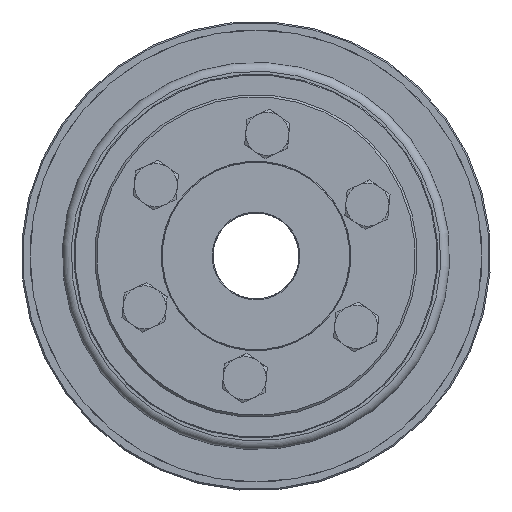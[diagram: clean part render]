
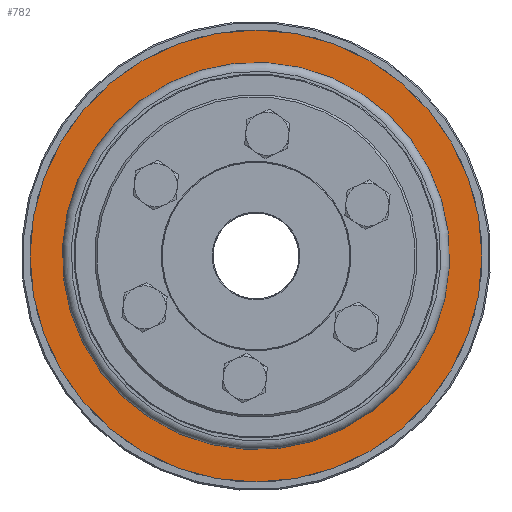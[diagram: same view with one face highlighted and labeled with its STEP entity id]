
A CAD part, left-side view. The second image highlights one B-rep face of the part: STEP entity #782.
In plain terms, the highlighted planar face has unit normal (-1, 0, 0).
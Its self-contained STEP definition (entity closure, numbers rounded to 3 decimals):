
#782 = ADVANCED_FACE( '', ( #1567, #1568 ), #1569, .T. );
#1567 = FACE_OUTER_BOUND( '', #2550, .T. );
#1568 = FACE_BOUND( '', #2551, .T. );
#1569 = PLANE( '', #2552 );
#2550 = EDGE_LOOP( '', ( #3627 ) );
#2551 = EDGE_LOOP( '', ( #3628 ) );
#2552 = AXIS2_PLACEMENT_3D( '', #3629, #3630, #3631 );
#3627 = ORIENTED_EDGE( '', *, *, #4924, .T. );
#3628 = ORIENTED_EDGE( '', *, *, #4707, .F. );
#3629 = CARTESIAN_POINT( '', ( 0., 0., 32.5 ) );
#3630 = DIRECTION( '', ( -1., 0., 0. ) );
#3631 = DIRECTION( '', ( 0., 0., 1. ) );
#4707 = EDGE_CURVE( '', #5257, #5257, #5258, .T. );
#4924 = EDGE_CURVE( '', #5619, #5619, #5620, .T. );
#5257 = VERTEX_POINT( '', #6053 );
#5258 = CIRCLE( '', #6054, 32.5 );
#5619 = VERTEX_POINT( '', #6780 );
#5620 = CIRCLE( '', #6781, 52.5 );
#6053 = CARTESIAN_POINT( '', ( 0., 0., 32.5 ) );
#6054 = AXIS2_PLACEMENT_3D( '', #7360, #7361, #7362 );
#6780 = CARTESIAN_POINT( '', ( 0., 0., 52.5 ) );
#6781 = AXIS2_PLACEMENT_3D( '', #7710, #7711, #7712 );
#7360 = CARTESIAN_POINT( '', ( 0., 0., 0. ) );
#7361 = DIRECTION( '', ( -1., 0., 0. ) );
#7362 = DIRECTION( '', ( 0., 0., 1. ) );
#7710 = CARTESIAN_POINT( '', ( 0., 0., 0. ) );
#7711 = DIRECTION( '', ( -1., 0., 0. ) );
#7712 = DIRECTION( '', ( 0., 0., 1. ) );
